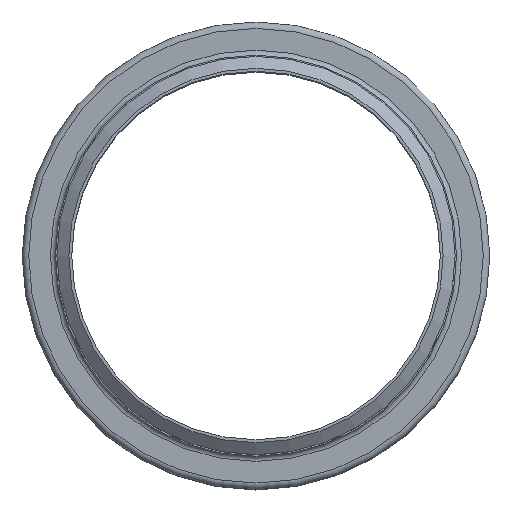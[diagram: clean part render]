
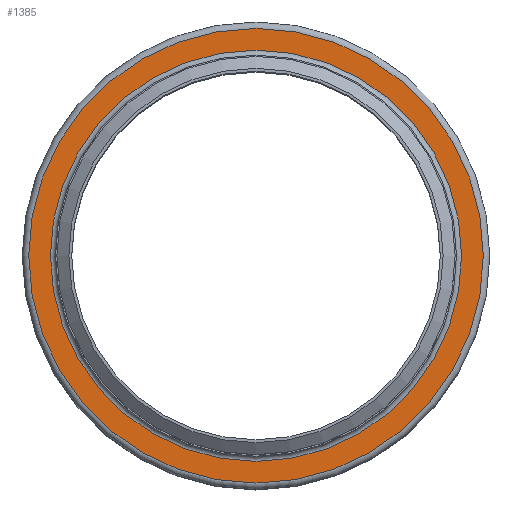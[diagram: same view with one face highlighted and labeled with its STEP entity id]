
A CAD part, top view. The second image highlights one B-rep face of the part: STEP entity #1385.
In plain terms, the highlighted planar face has unit normal (0, 0, 1).
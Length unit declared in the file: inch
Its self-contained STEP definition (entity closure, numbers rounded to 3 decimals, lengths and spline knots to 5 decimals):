
#155=FACE_BOUND('',#416,.T.);
#256=FACE_OUTER_BOUND('',#415,.T.);
#415=EDGE_LOOP('',(#1168));
#416=EDGE_LOOP('',(#1169));
#584=CIRCLE('',#1684,4.4525);
#585=CIRCLE('',#1686,4.9225);
#703=VERTEX_POINT('',#2631);
#704=VERTEX_POINT('',#2635);
#862=EDGE_CURVE('',#703,#703,#584,.T.);
#863=EDGE_CURVE('',#704,#704,#585,.T.);
#1168=ORIENTED_EDGE('',*,*,#863,.F.);
#1169=ORIENTED_EDGE('',*,*,#862,.T.);
#1284=PLANE('',#1685);
#1385=ADVANCED_FACE('',(#256,#155),#1284,.T.);
#1684=AXIS2_PLACEMENT_3D('',#2633,#2197,#2198);
#1685=AXIS2_PLACEMENT_3D('',#2634,#2199,#2200);
#1686=AXIS2_PLACEMENT_3D('',#2636,#2201,#2202);
#2197=DIRECTION('center_axis',(0.,0.,-1.));
#2198=DIRECTION('ref_axis',(1.,0.,0.));
#2199=DIRECTION('center_axis',(0.,0.,1.));
#2200=DIRECTION('ref_axis',(1.,0.,0.));
#2201=DIRECTION('center_axis',(0.,0.,-1.));
#2202=DIRECTION('ref_axis',(1.,0.,0.));
#2631=CARTESIAN_POINT('',(4.4525,0.,-0.11));
#2633=CARTESIAN_POINT('Origin',(0.,0.,-0.11));
#2634=CARTESIAN_POINT('Origin',(0.,4.9225,-0.11));
#2635=CARTESIAN_POINT('',(4.9225,0.,-0.11));
#2636=CARTESIAN_POINT('Origin',(0.,0.,-0.11));
